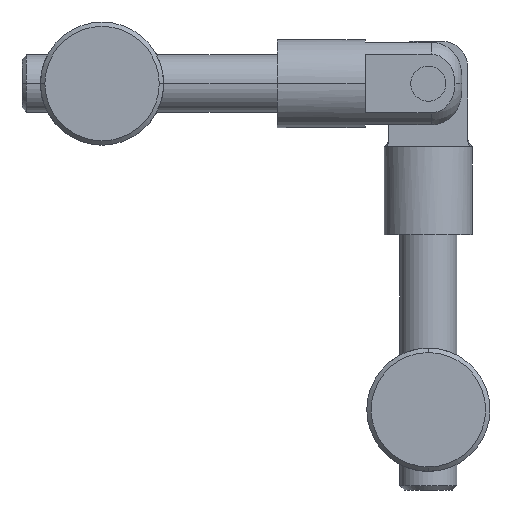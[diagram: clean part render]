
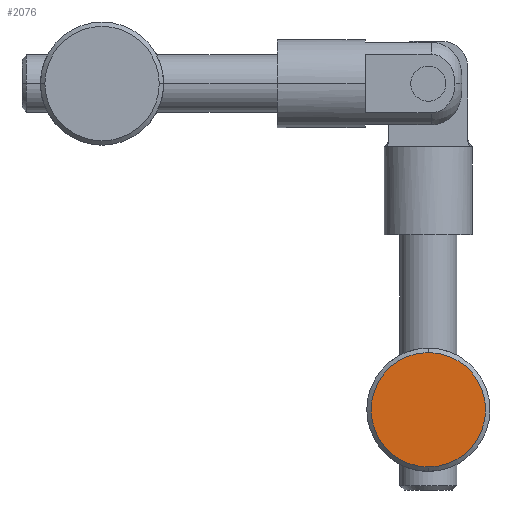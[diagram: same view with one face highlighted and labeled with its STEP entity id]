
A CAD part, front view. The second image highlights one B-rep face of the part: STEP entity #2076.
In plain terms, the highlighted planar face has unit normal (0, -1, 0) as drawn and (0, 0, 1) by its records, which use the part's own axes.
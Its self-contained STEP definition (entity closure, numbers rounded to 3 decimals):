
#71 = EDGE_CURVE ( 'NONE', #3300, #2220, #2999, .T. ) ;
#672 = CIRCLE ( 'NONE', #2621, 6.5 ) ;
#890 = DIRECTION ( 'NONE',  ( 0., 0., 1. ) ) ;
#1092 = FACE_OUTER_BOUND ( 'NONE', #2106, .T. ) ;
#1186 = EDGE_CURVE ( 'NONE', #2220, #3300, #672, .T. ) ;
#1416 = CARTESIAN_POINT ( 'NONE',  ( -15.253, 0., 29. ) ) ;
#1519 = CARTESIAN_POINT ( 'NONE',  ( -15.253, 0., 29. ) ) ;
#1714 = DIRECTION ( 'NONE',  ( 1., 0., 0. ) ) ;
#1763 = ORIENTED_EDGE ( 'NONE', *, *, #71, .T. ) ;
#1810 = DIRECTION ( 'NONE',  ( 1., 0., 0. ) ) ;
#1841 = ORIENTED_EDGE ( 'NONE', *, *, #1186, .T. ) ;
#2076 = ADVANCED_FACE ( 'NONE', ( #1092 ), #3469, .T. ) ;
#2106 = EDGE_LOOP ( 'NONE', ( #1841, #1763 ) ) ;
#2220 = VERTEX_POINT ( 'NONE', #3546 ) ;
#2404 = AXIS2_PLACEMENT_3D ( 'NONE', #3531, #890, #2910 ) ;
#2424 = AXIS2_PLACEMENT_3D ( 'NONE', #1519, #3514, #1810 ) ;
#2621 = AXIS2_PLACEMENT_3D ( 'NONE', #1416, #3424, #1714 ) ;
#2910 = DIRECTION ( 'NONE',  ( 1., 0., 0. ) ) ;
#2999 = CIRCLE ( 'NONE', #2424, 6.5 ) ;
#3042 = CARTESIAN_POINT ( 'NONE',  ( -8.753, 0., 29. ) ) ;
#3300 = VERTEX_POINT ( 'NONE', #3042 ) ;
#3424 = DIRECTION ( 'NONE',  ( 0., 0., 1. ) ) ;
#3469 = PLANE ( 'NONE',  #2404 ) ;
#3514 = DIRECTION ( 'NONE',  ( 0., 0., 1. ) ) ;
#3531 = CARTESIAN_POINT ( 'NONE',  ( -15.253, 0., 29. ) ) ;
#3546 = CARTESIAN_POINT ( 'NONE',  ( -21.753, 0., 29. ) ) ;
